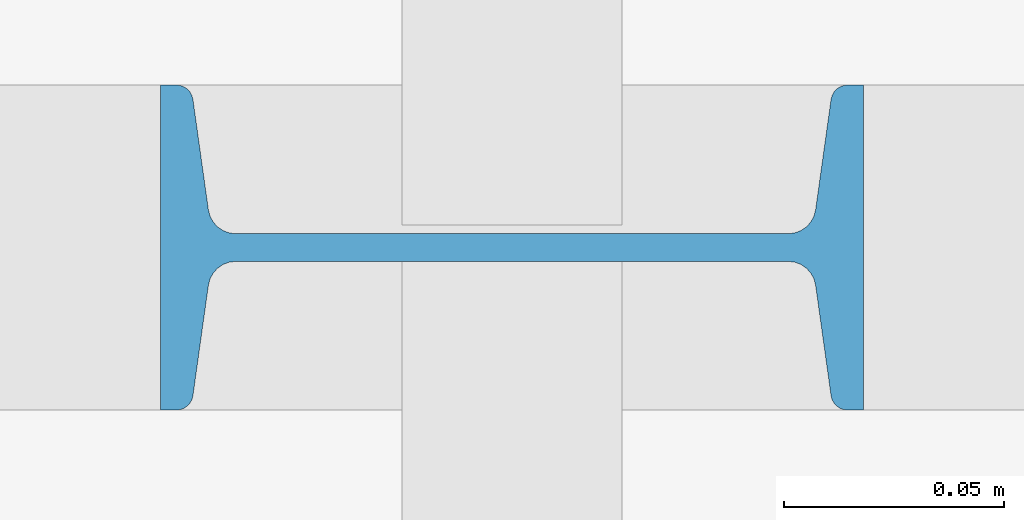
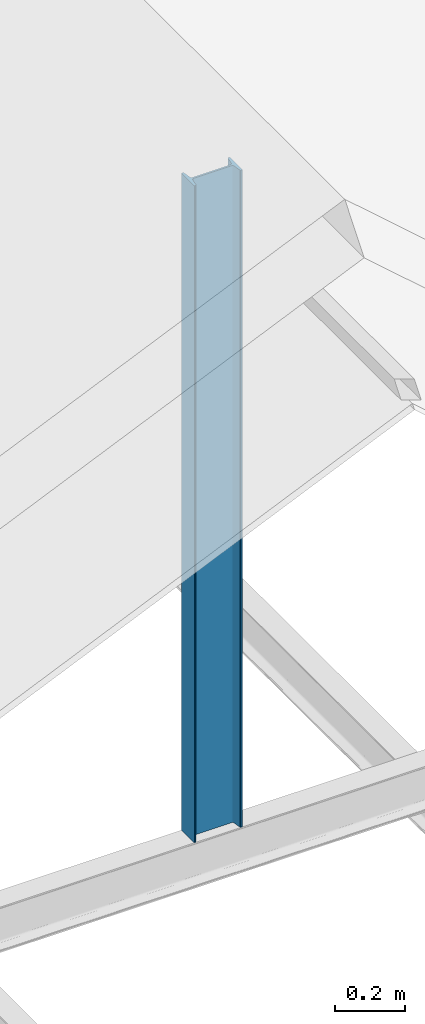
# One storey, part 3 of 10: 1 member, 1 element without a shape of its own.
"""IFC2X3 building model written with IfcOpenShell, lengths in metres."""

from ifc_helpers import new_model, entity, si_unit, converted_unit, derived_unit, direction, frame, frame_2d, origin, place, context, subcontext, project, spatial, polyline, circle_curve, parameter, trimmed, segment, composite_curve, outline, extrude, source, transform, mapped, material, type_object, type_shapes, element, aggregate, save


model = new_model("IFC2X3")

# Units and contexts
model_context = context("Model", 3, precision=1e-05, world=origin(), true_north=direction((6.12303176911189e-17, 1.0)))
body_context = subcontext(model_context, "Body", "Model", "MODEL_VIEW")
ifc_project = project(units=[si_unit("LENGTHUNIT", "METRE"), si_unit("AREAUNIT", "SQUARE_METRE"), si_unit("VOLUMEUNIT", "CUBIC_METRE"), converted_unit("PLANEANGLEUNIT", "DEGREE", entity("IfcRatioMeasure", 0.0174532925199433), si_unit("PLANEANGLEUNIT", "RADIAN"), dimensions=[0, 0, 0, 0, 0, 0, 0]), si_unit("MASSUNIT", "GRAM", prefix="KILO"), derived_unit("MASSDENSITYUNIT", [(si_unit("MASSUNIT", "GRAM", prefix="KILO"), 1), (si_unit("LENGTHUNIT", "METRE"), -3)]), derived_unit("MOMENTOFINERTIAUNIT", [(si_unit("LENGTHUNIT", "METRE"), 4)]), si_unit("TIMEUNIT", "SECOND"), si_unit("FREQUENCYUNIT", "HERTZ"), si_unit("THERMODYNAMICTEMPERATUREUNIT", "DEGREE_CELSIUS"), derived_unit("THERMALTRANSMITTANCEUNIT", [(si_unit("MASSUNIT", "GRAM", prefix="KILO"), 1), (si_unit("THERMODYNAMICTEMPERATUREUNIT", "KELVIN"), -1), (si_unit("TIMEUNIT", "SECOND"), -3)]), derived_unit("VOLUMETRICFLOWRATEUNIT", [(si_unit("LENGTHUNIT", "METRE"), 3), (si_unit("TIMEUNIT", "SECOND"), -1)]), si_unit("ELECTRICCURRENTUNIT", "AMPERE"), si_unit("ELECTRICVOLTAGEUNIT", "VOLT"), si_unit("POWERUNIT", "WATT"), si_unit("FORCEUNIT", "NEWTON", prefix="KILO"), si_unit("ILLUMINANCEUNIT", "LUX"), si_unit("LUMINOUSFLUXUNIT", "LUMEN"), si_unit("LUMINOUSINTENSITYUNIT", "CANDELA"), derived_unit("USERDEFINED", [(si_unit("MASSUNIT", "GRAM", prefix="KILO"), -1), (si_unit("LENGTHUNIT", "METRE"), -2), (si_unit("TIMEUNIT", "SECOND"), 3), (si_unit("LUMINOUSFLUXUNIT", "LUMEN"), 1)]), derived_unit("LINEARVELOCITYUNIT", [(si_unit("LENGTHUNIT", "METRE"), 1), (si_unit("TIMEUNIT", "SECOND"), -1)]), si_unit("PRESSUREUNIT", "PASCAL"), derived_unit("USERDEFINED", [(si_unit("LENGTHUNIT", "METRE"), -2), (si_unit("MASSUNIT", "GRAM", prefix="KILO"), 1), (si_unit("TIMEUNIT", "SECOND"), -2)]), derived_unit("LINEARFORCEUNIT", [(si_unit("MASSUNIT", "GRAM", prefix="KILO"), 1), (si_unit("LENGTHUNIT", "METRE"), 1), (si_unit("TIMEUNIT", "SECOND"), -2), (si_unit("LENGTHUNIT", "METRE"), -1)]), derived_unit("PLANARFORCEUNIT", [(si_unit("MASSUNIT", "GRAM", prefix="KILO"), 1), (si_unit("LENGTHUNIT", "METRE"), 1), (si_unit("TIMEUNIT", "SECOND"), -2), (si_unit("LENGTHUNIT", "METRE"), -2)])], contexts=[model_context])

# Site, building, storey
site_placement = place(None, origin())
site = spatial("IfcSite", under=ifc_project, at=site_placement, Name="Superficie", CompositionType="ELEMENT")
building_placement = place(site_placement, origin())
building = spatial("IfcBuilding", under=site, at=building_placement, Name="Telegestiones", CompositionType="ELEMENT")
storey_placement = place(building_placement, frame((0.0, 0.0, 13.23)))
storey = spatial("IfcBuildingStorey", under=building, at=storey_placement, Name="Nivel 3_SUP", CompositionType="ELEMENT", Elevation=13.23)

# Assembly, member
assembly_placement = place(storey_placement, origin())
assembly = element("IfcElementAssembly", 1, at=assembly_placement, inside=storey, Name="EST-CER-Hi:Estándar", ObjectType="EST-CER-Hi:Estándar", AssemblyPlace="NOTDEFINED", PredefinedType="TRUSS")
ifc_material = material(Name="Metal - Acero - 345 MPa")
member_type = type_object("IfcMemberType", Name="IPN - Secciones en I con alas cónicas:IPN 160", PredefinedType="BRACE", material=ifc_material)
shared_shape = source(origin(), body_context, "Body", "SweptSolid", [
    extrude(outline(composite_curve([segment(polyline([(-0.0369999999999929, -0.0800000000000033), (0.0370000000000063, -0.0800000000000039)]), True, "CONTINUOUS"), segment(polyline([(0.0370000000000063, -0.0799999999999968), (0.037000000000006, -0.0763950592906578)]), True, "CONTINUOUS"), segment(trimmed(circle_curve(frame_2d((0.0332000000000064, -0.0763950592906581), x_axis=(1.0, 0.0)), 0.00379999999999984), [parameter(0.0)], [parameter(82.0303896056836)], True, "PARAMETER"), True, "CONTINUOUS"), segment(polyline([(0.0337268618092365, -0.072631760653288), (0.00857651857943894, -0.069110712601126)]), True, "CONTINUOUS"), segment(trimmed(circle_curve(frame_2d((0.00945000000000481, -0.0628715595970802), x_axis=(-0.138647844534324, -0.990341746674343)), 0.00629999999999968), [parameter(277.969610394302)], [parameter(0.0)], True, "PARAMETER"), False, "CONTINUOUS"), segment(polyline([(0.00315000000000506, -0.0628715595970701), (0.00314999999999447, 0.0628715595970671)]), True, "CONTINUOUS"), segment(trimmed(circle_curve(frame_2d((0.00944999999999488, 0.0628715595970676), x_axis=(-1.0, 0.0)), 0.00630000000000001), [parameter(277.969610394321)], [parameter(0.0)], True, "PARAMETER"), False, "CONTINUOUS"), segment(polyline([(0.00857651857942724, 0.069110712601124), (0.0337268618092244, 0.0726317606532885)]), True, "CONTINUOUS"), segment(trimmed(circle_curve(frame_2d((0.0331999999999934, 0.0763950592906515), x_axis=(0.138647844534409, -0.99034174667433)), 0.00379999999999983), [parameter(0.0)], [parameter(82.0303896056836)], True, "PARAMETER"), True, "CONTINUOUS"), segment(polyline([(0.0369999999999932, 0.076395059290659), (0.0369999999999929, 0.079999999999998)]), True, "CONTINUOUS"), segment(polyline([(0.0369999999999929, 0.0800000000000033), (-0.0370000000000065, 0.0799999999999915)]), True, "CONTINUOUS"), segment(polyline([(-0.0370000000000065, 0.0799999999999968), (-0.0370000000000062, 0.0763950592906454)]), True, "CONTINUOUS"), segment(trimmed(circle_curve(frame_2d((-0.0332000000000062, 0.0763950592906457), x_axis=(-1.0, 0.0)), 0.00379999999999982), [parameter(0.0)], [parameter(82.0303896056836)], True, "PARAMETER"), True, "CONTINUOUS"), segment(polyline([(-0.0337268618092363, 0.0726317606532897), (-0.00857651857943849, 0.0691107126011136)]), True, "CONTINUOUS"), segment(trimmed(circle_curve(frame_2d((-0.00945000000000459, 0.0628715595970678), x_axis=(0.138647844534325, 0.990341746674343)), 0.00629999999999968), [parameter(277.969610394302)], [parameter(0.0)], True, "PARAMETER"), False, "CONTINUOUS"), segment(polyline([(-0.00315000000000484, 0.0628715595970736), (-0.00314999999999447, -0.0628715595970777)]), True, "CONTINUOUS"), segment(trimmed(circle_curve(frame_2d((-0.00944999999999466, -0.0628715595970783), x_axis=(1.0, 0.0)), 0.00630000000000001), [parameter(277.969610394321)], [parameter(0.0)], True, "PARAMETER"), False, "CONTINUOUS"), segment(polyline([(-0.00857651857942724, -0.0691107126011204), (-0.0337268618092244, -0.072631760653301)]), True, "CONTINUOUS"), segment(trimmed(circle_curve(frame_2d((-0.0331999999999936, -0.076395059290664), x_axis=(-0.138647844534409, 0.99034174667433)), 0.00379999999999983), [parameter(0.0)], [parameter(82.0303896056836)], True, "PARAMETER"), True, "CONTINUOUS"), segment(polyline([(-0.0369999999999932, -0.0763950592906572), (-0.0369999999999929, -0.0800000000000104)]), True, "CONTINUOUS")], self_intersect=False)), frame((10.4934837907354, 1.98960722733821, 13.39), z_axis=(0.0, 0.0, 1.0), x_axis=(0.0, -1.0, 0.0)), (0.0, 0.0, 1.0), 2.308),
])
type_shapes(member_type, [shared_shape])
member_placement = place(assembly_placement, frame((0.0, 0.0, -13.23)))
member = element("IfcMember", 2, at=member_placement, type_object=member_type, Name="IPN - Secciones en I con alas cónicas:IPN 160", ObjectType="IPN - Secciones en I con alas cónicas:IPN 160", context=body_context, shape_type="MappedRepresentation", body=[
    mapped(shared_shape, transform((0.0, 0.0, 0.0), scale=1.0)),
])
aggregate(assembly, [member])

save(model, "model.ifc")
